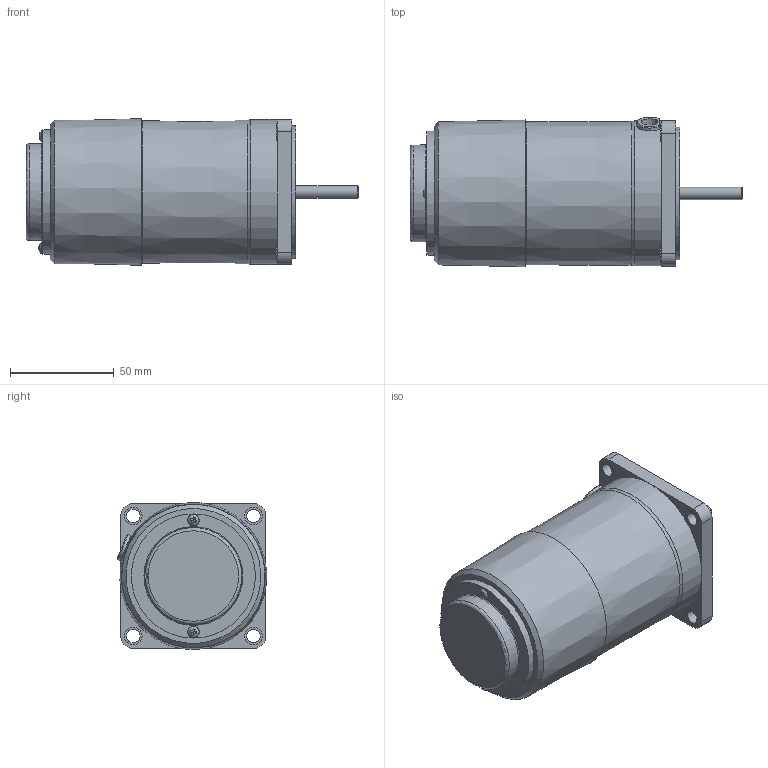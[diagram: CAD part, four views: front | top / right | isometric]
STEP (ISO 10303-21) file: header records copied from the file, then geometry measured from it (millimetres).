
FILE_DESCRIPTION(/* description */ (''),/* implementation_level */ '2;1');
FILE_NAME(/* name */ 'Y:\제품연구개발\3. 도면\3. 고객배포용\3D_홈페이지용\01-1 Standard AC SG Series\05-3 SPEED CONTROL ELECTROMAGNETIC BRAKE MOTOR(ES)\SG7R15_-ES12\SG7R15S-ES.stp',/* time_stamp */ '2023-12-04T09:35:02+09:00',/* author */ ('shyi1037'),/* organization */ (''),/* preprocessor_version */ 'ST-DEVELOPER v18.1',/* originating_system */ 'Autodesk Inventor 2022',/* authorisation */ '');
FILE_SCHEMA (('AUTOMOTIVE_DESIGN { 1 0 10303 214 3 1 1 }'));
Length unit declared in the file: millimetre
Products named in the file (1): SG7R15S-ES
Bounding box: 160.2 x 72.14 x 70.84 mm (x, y, z)
Volume: 470831.5 mm3; surface area: 42258.8 mm2
Topology: 1 solids, 6 shells, 158 faces, 368 edges, 239 vertices
Faces by surface type: plane 96, cylinder 46, torus 9, cone 5, bspline 2
Full cylindrical faces by diameter (mm): 3 x2, 3.5 x2, 5 x1, 5.6 x2, 6 x1, 6.5 x6, 8 x1, 8.5 x4, 10 x1, 28 x1, 44.7 x1, 46.7 x1, 47.7 x1, 59.9 x1, 64 x1, 68 x1, 70 x1
Entity records: 4896 total; most frequent: CARTESIAN_POINT 1117, DIRECTION 788, ORIENTED_EDGE 736, EDGE_CURVE 368, AXIS2_PLACEMENT_3D 302, VERTEX_POINT 239, EDGE_LOOP 189, LINE 184
